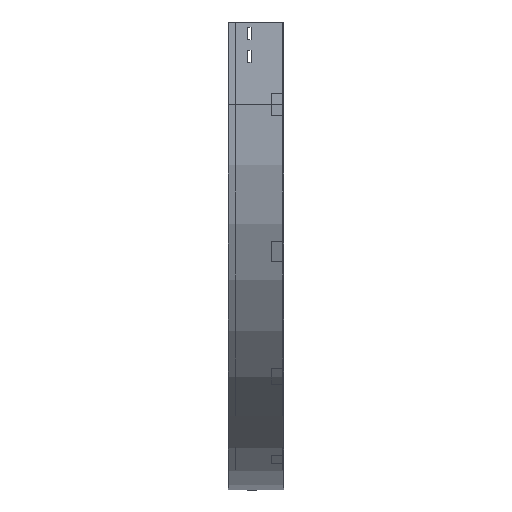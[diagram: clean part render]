
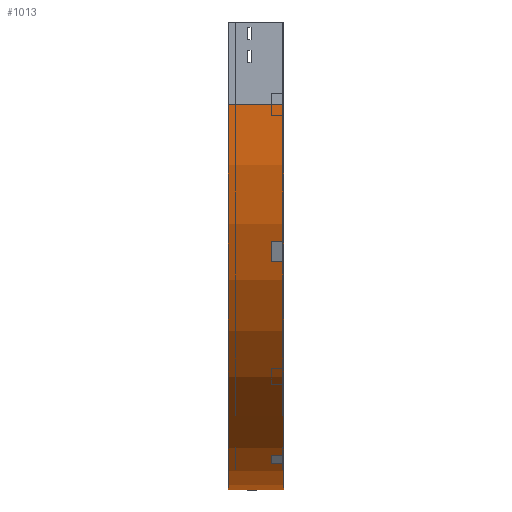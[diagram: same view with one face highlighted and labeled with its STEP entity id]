
A CAD part, left-side view. The second image highlights one B-rep face of the part: STEP entity #1013.
In plain terms, the highlighted cylindrical face has radius 700 mm (diameter 1400 mm), a partial arc.
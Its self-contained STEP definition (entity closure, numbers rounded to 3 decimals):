
#20 = EDGE_CURVE ( 'NONE', #994, #2114, #2042, .T. ) ;
#28 = EDGE_CURVE ( 'NONE', #994, #3260, #969, .T. ) ;
#252 = DIRECTION ( 'NONE',  ( -1., 0., 0. ) ) ;
#324 = CARTESIAN_POINT ( 'NONE',  ( 700., 100., -150. ) ) ;
#412 = ORIENTED_EDGE ( 'NONE', *, *, #28, .T. ) ;
#463 = CARTESIAN_POINT ( 'NONE',  ( 700., 0., -150. ) ) ;
#469 = CARTESIAN_POINT ( 'NONE',  ( 0., 100., -150. ) ) ;
#491 = CYLINDRICAL_SURFACE ( 'NONE', #2156, 700. ) ;
#558 = ORIENTED_EDGE ( 'NONE', *, *, #1392, .F. ) ;
#813 = VECTOR ( 'NONE', #2721, 1000. ) ;
#849 = CARTESIAN_POINT ( 'NONE',  ( 700., 0., -850. ) ) ;
#969 = CIRCLE ( 'NONE', #1468, 700. ) ;
#994 = VERTEX_POINT ( 'NONE', #469 ) ;
#1013 = ADVANCED_FACE ( 'NONE', ( #3230 ), #491, .T. ) ;
#1392 = EDGE_CURVE ( 'NONE', #2114, #1821, #1744, .T. ) ;
#1468 = AXIS2_PLACEMENT_3D ( 'NONE', #324, #2703, #3549 ) ;
#1574 = EDGE_CURVE ( 'NONE', #3260, #1821, #3026, .T. ) ;
#1632 = CARTESIAN_POINT ( 'NONE',  ( 0., 0., -150. ) ) ;
#1744 = CIRCLE ( 'NONE', #2938, 700. ) ;
#1761 = CARTESIAN_POINT ( 'NONE',  ( 0., 0., -150. ) ) ;
#1821 = VERTEX_POINT ( 'NONE', #2245 ) ;
#1826 = DIRECTION ( 'NONE',  ( 0., -1., 0. ) ) ;
#1943 = DIRECTION ( 'NONE',  ( 0., -1., 0. ) ) ;
#2042 = LINE ( 'NONE', #1761, #2158 ) ;
#2114 = VERTEX_POINT ( 'NONE', #1632 ) ;
#2156 = AXIS2_PLACEMENT_3D ( 'NONE', #3813, #2613, #2572 ) ;
#2158 = VECTOR ( 'NONE', #1826, 1000. ) ;
#2245 = CARTESIAN_POINT ( 'NONE',  ( 700., 0., -850. ) ) ;
#2572 = DIRECTION ( 'NONE',  ( 0., 0., -1. ) ) ;
#2613 = DIRECTION ( 'NONE',  ( 0., -1., 0. ) ) ;
#2703 = DIRECTION ( 'NONE',  ( 0., -1., 0. ) ) ;
#2721 = DIRECTION ( 'NONE',  ( 0., -1., 0. ) ) ;
#2928 = ORIENTED_EDGE ( 'NONE', *, *, #20, .F. ) ;
#2938 = AXIS2_PLACEMENT_3D ( 'NONE', #463, #1943, #252 ) ;
#3026 = LINE ( 'NONE', #849, #813 ) ;
#3230 = FACE_OUTER_BOUND ( 'NONE', #3374, .T. ) ;
#3260 = VERTEX_POINT ( 'NONE', #3383 ) ;
#3374 = EDGE_LOOP ( 'NONE', ( #558, #2928, #412, #3562 ) ) ;
#3383 = CARTESIAN_POINT ( 'NONE',  ( 700., 100., -850. ) ) ;
#3549 = DIRECTION ( 'NONE',  ( -1., 0., 0. ) ) ;
#3562 = ORIENTED_EDGE ( 'NONE', *, *, #1574, .T. ) ;
#3813 = CARTESIAN_POINT ( 'NONE',  ( 700., 0., -150. ) ) ;
